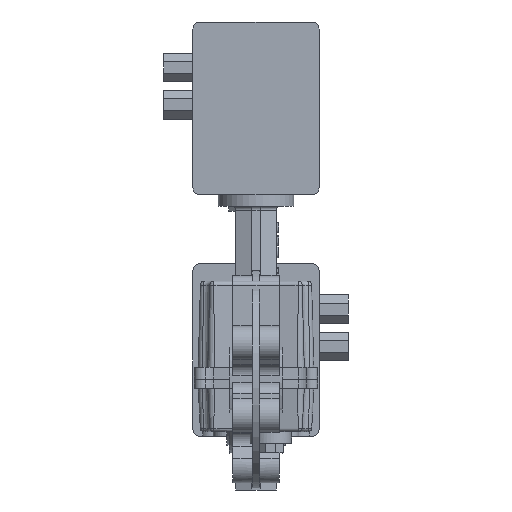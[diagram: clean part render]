
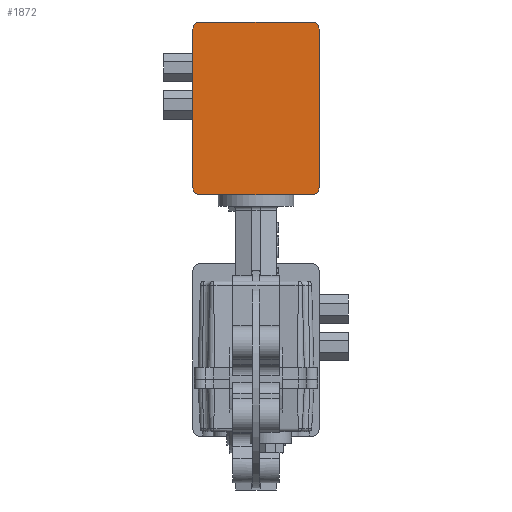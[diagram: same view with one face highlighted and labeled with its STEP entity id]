
A CAD part, left-side view. The second image highlights one B-rep face of the part: STEP entity #1872.
In plain terms, the highlighted planar face has unit normal (-1, 0, 0) as drawn and (1, 0, 0) by its records, which use the part's own axes.
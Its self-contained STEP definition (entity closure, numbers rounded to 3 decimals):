
#1872 = ADVANCED_FACE( '', ( #3896 ), #3897, .T. );
#3896 = FACE_OUTER_BOUND( '', #9095, .T. );
#3897 = PLANE( '', #9096 );
#9095 = EDGE_LOOP( '', ( #15943, #15944, #15945, #15946, #15947, #15948, #15949, #15950 ) );
#9096 = AXIS2_PLACEMENT_3D( '', #15951, #15952, #15953 );
#15943 = ORIENTED_EDGE( '', *, *, #16892, .T. );
#15944 = ORIENTED_EDGE( '', *, *, #17209, .T. );
#15945 = ORIENTED_EDGE( '', *, *, #18173, .T. );
#15946 = ORIENTED_EDGE( '', *, *, #17423, .T. );
#15947 = ORIENTED_EDGE( '', *, *, #17259, .T. );
#15948 = ORIENTED_EDGE( '', *, *, #17973, .T. );
#15949 = ORIENTED_EDGE( '', *, *, #18059, .T. );
#15950 = ORIENTED_EDGE( '', *, *, #18146, .T. );
#15951 = CARTESIAN_POINT( '', ( 148., -54., -49. ) );
#15952 = DIRECTION( '', ( 1., 0., 0. ) );
#15953 = DIRECTION( '', ( 0., 0., -1. ) );
#16892 = EDGE_CURVE( '', #19510, #19508, #19511, .T. );
#17209 = EDGE_CURVE( '', #19508, #20027, #20028, .T. );
#17259 = EDGE_CURVE( '', #20112, #20110, #20113, .T. );
#17423 = EDGE_CURVE( '', #20364, #20112, #20365, .T. );
#17973 = EDGE_CURVE( '', #20110, #21141, #21142, .T. );
#18059 = EDGE_CURVE( '', #21141, #21253, #21254, .T. );
#18146 = EDGE_CURVE( '', #21253, #19510, #21361, .T. );
#18173 = EDGE_CURVE( '', #20027, #20364, #21393, .T. );
#19508 = VERTEX_POINT( '', #24398 );
#19510 = VERTEX_POINT( '', #24401 );
#19511 = LINE( '', #24402, #24403 );
#20027 = VERTEX_POINT( '', #25567 );
#20028 = CIRCLE( '', #25568, 6. );
#20110 = VERTEX_POINT( '', #25684 );
#20112 = VERTEX_POINT( '', #25687 );
#20113 = LINE( '', #25688, #25689 );
#20364 = VERTEX_POINT( '', #26278 );
#20365 = CIRCLE( '', #26279, 6. );
#21141 = VERTEX_POINT( '', #28111 );
#21142 = CIRCLE( '', #28112, 6. );
#21253 = VERTEX_POINT( '', #28478 );
#21254 = LINE( '', #28479, #28480 );
#21361 = CIRCLE( '', #28682, 6. );
#21393 = LINE( '', #28775, #28776 );
#24398 = CARTESIAN_POINT( '', ( 148., 54., 93. ) );
#24401 = CARTESIAN_POINT( '', ( 148., 54., -43. ) );
#24402 = CARTESIAN_POINT( '', ( 148., 54., -49. ) );
#24403 = VECTOR( '', #30546, 1000. );
#25567 = CARTESIAN_POINT( '', ( 148., 48., 99. ) );
#25568 = AXIS2_PLACEMENT_3D( '', #30929, #30930, #30931 );
#25684 = CARTESIAN_POINT( '', ( 148., -54., -43. ) );
#25687 = CARTESIAN_POINT( '', ( 148., -54., 93. ) );
#25688 = CARTESIAN_POINT( '', ( 148., -54., 99. ) );
#25689 = VECTOR( '', #30981, 1000. );
#26278 = CARTESIAN_POINT( '', ( 148., -48., 99. ) );
#26279 = AXIS2_PLACEMENT_3D( '', #31161, #31162, #31163 );
#28111 = CARTESIAN_POINT( '', ( 148., -48., -49. ) );
#28112 = AXIS2_PLACEMENT_3D( '', #31728, #31729, #31730 );
#28478 = CARTESIAN_POINT( '', ( 148., 48., -49. ) );
#28479 = CARTESIAN_POINT( '', ( 148., -54., -49. ) );
#28480 = VECTOR( '', #31806, 1000. );
#28682 = AXIS2_PLACEMENT_3D( '', #31893, #31894, #31895 );
#28775 = CARTESIAN_POINT( '', ( 148., 54., 99. ) );
#28776 = VECTOR( '', #31906, 1000. );
#30546 = DIRECTION( '', ( 0., 0., 1. ) );
#30929 = CARTESIAN_POINT( '', ( 148., 48., 93. ) );
#30930 = DIRECTION( '', ( 1., 0., 0. ) );
#30931 = DIRECTION( '', ( 0., 0., -1. ) );
#30981 = DIRECTION( '', ( 0., 0., -1. ) );
#31161 = CARTESIAN_POINT( '', ( 148., -48., 93. ) );
#31162 = DIRECTION( '', ( 1., 0., 0. ) );
#31163 = DIRECTION( '', ( 0., 0., -1. ) );
#31728 = CARTESIAN_POINT( '', ( 148., -48., -43. ) );
#31729 = DIRECTION( '', ( 1., 0., 0. ) );
#31730 = DIRECTION( '', ( 0., 0., -1. ) );
#31806 = DIRECTION( '', ( 0., 1., 0. ) );
#31893 = CARTESIAN_POINT( '', ( 148., 48., -43. ) );
#31894 = DIRECTION( '', ( 1., 0., 0. ) );
#31895 = DIRECTION( '', ( 0., 0., -1. ) );
#31906 = DIRECTION( '', ( 0., -1., 0. ) );
